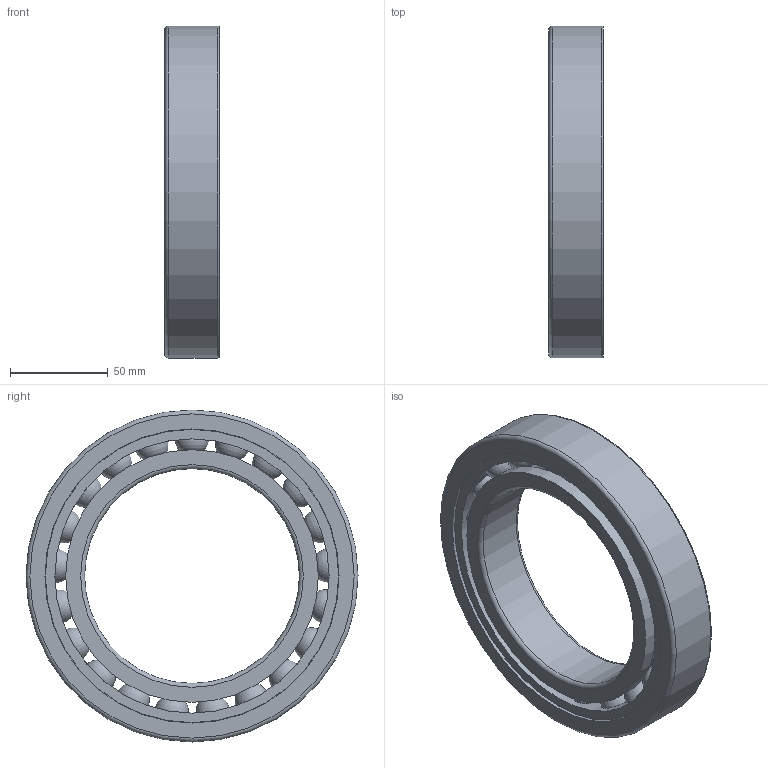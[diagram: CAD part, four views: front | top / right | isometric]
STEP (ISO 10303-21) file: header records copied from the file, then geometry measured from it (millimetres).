
FILE_DESCRIPTION(/* description */ (''),/* implementation_level */ '2;1');
FILE_NAME(/* name */ 'S_6022_TA.step',/* time_stamp */ '2013-03-06T14:46:10+01:00',/* author */ ('Marian'),/* organization */ ('GMN'),/* preprocessor_version */ 'ST-DEVELOPER v11',/* originating_system */ 'SIEMENS UGS NX 6.0',/* authorisation */ '');
FILE_SCHEMA (('CONFIG_CONTROL_DESIGN'));
Length unit declared in the file: millimetre
Products named in the file (1): S_6022_TA
Bounding box: 28 x 170 x 170 mm (x, y, z)
Volume: 281974.4 mm3; surface area: 107778.7 mm2
Topology: 24 solids, 24 shells, 62 faces, 160 edges, 104 vertices
Faces by surface type: cylinder 28, sphere 21, torus 6, plane 6, cone 1
Full cylindrical faces by diameter (mm): 17.662 x21, 110 x1, 129.4 x2, 140.422 x1, 150.2 x1, 150.6 x1, 170 x1
Entity records: 2052 total; most frequent: CARTESIAN_POINT 922, DIRECTION 166, FACE_BOUND 145, EDGE_LOOP 124, ORIENTED_EDGE 124, VERTEX_POINT 83, AXIS2_PLACEMENT_3D 83, EDGE_CURVE 62
